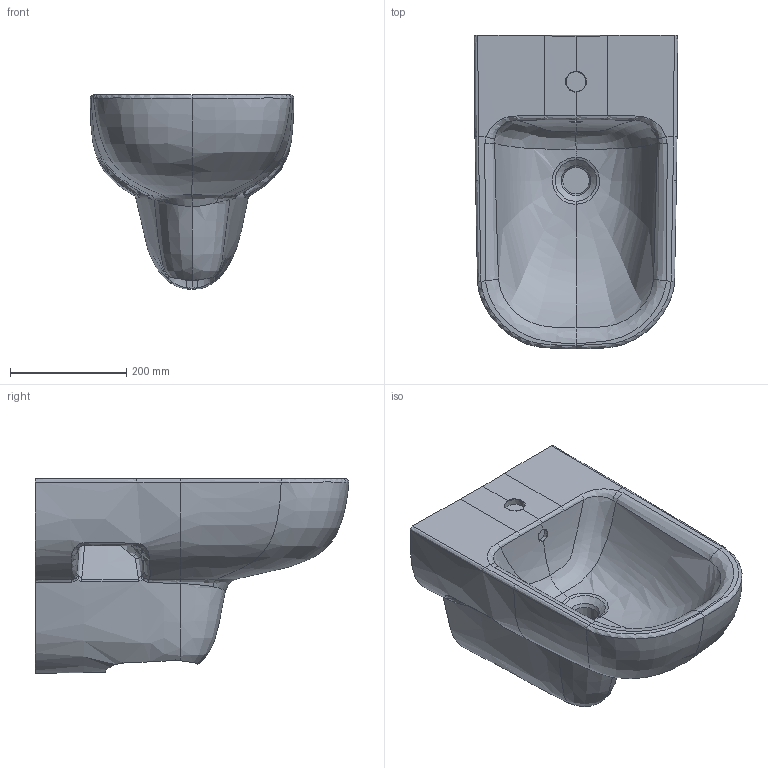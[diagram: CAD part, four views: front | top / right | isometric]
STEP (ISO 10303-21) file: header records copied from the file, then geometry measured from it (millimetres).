
FILE_DESCRIPTION(/* description */ (''),/* implementation_level */ '2;1');
FILE_NAME(/* name */ 'C:\Planerdaten\Export PLA\500.216.01.1\stp\500216.stp',/* time_stamp */ '2020-04-30T09:06:12+02:00',/* author */ ('JANAN'),/* organization */ (''),/* preprocessor_version */ 'ST-DEVELOPER v16.13',/* originating_system */ 'Autodesk Inventor 2018',/* authorisation */ '');
FILE_SCHEMA (('AUTOMOTIVE_DESIGN { 1 0 10303 214 3 1 1 }'));
Products named in the file (1): WBI Ge+Smy T54 m/ÜLF
Bounding box: 349.97 x 539.6 x 335 mm (x, y, z)
Volume: 21236929.1 mm3; surface area: 783473.8 mm2
Topology: 1 solids, 1 shells, 147 faces, 352 edges, 210 vertices
Faces by surface type: bspline 131, plane 9, cylinder 5, cone 1, torus 1
Full cylindrical faces by diameter (mm): 20 x2, 35 x1, 46 x1, 50 x1
Entity records: 91674 total; most frequent: CARTESIAN_POINT 89069, ORIENTED_EDGE 680, EDGE_CURVE 340, B_SPLINE_CURVE_WITH_KNOTS 228, DIRECTION 223, VERTEX_POINT 205, EDGE_LOOP 157, STYLED_ITEM 148
